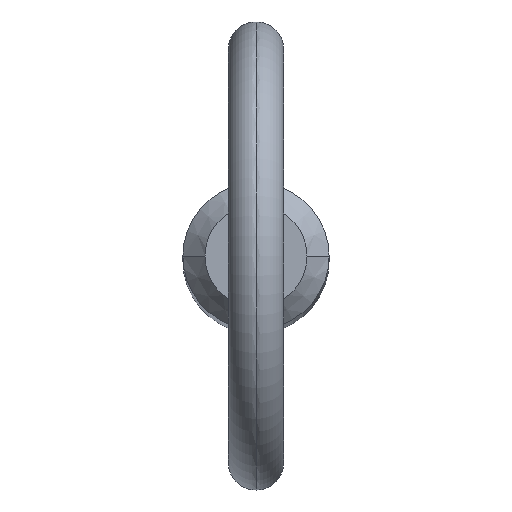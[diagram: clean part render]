
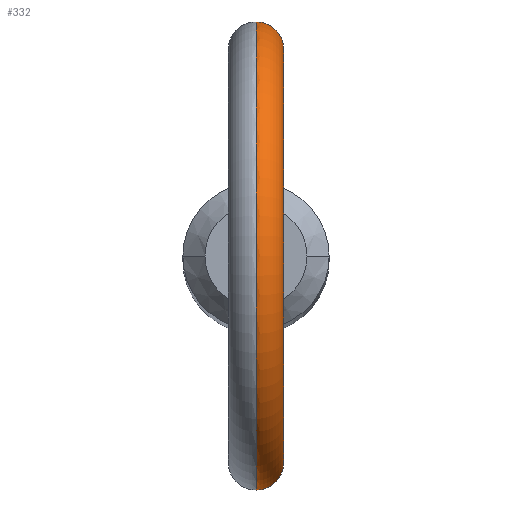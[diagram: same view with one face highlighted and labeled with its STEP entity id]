
A CAD part, top view. The second image highlights one B-rep face of the part: STEP entity #332.
In plain terms, the highlighted toroidal (fillet/blend) face has major radius 11.2 mm and minor radius 1.5 mm.
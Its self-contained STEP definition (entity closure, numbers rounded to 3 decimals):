
#9 = VERTEX_POINT ( 'NONE', #151 ) ;
#25 = CARTESIAN_POINT ( 'NONE',  ( 1.471, -3.682, 121.194 ) ) ;
#28 = CARTESIAN_POINT ( 'NONE',  ( 1.479, -3.679, 121.807 ) ) ;
#30 = CARTESIAN_POINT ( 'NONE',  ( 0.411, 3.948, 123.191 ) ) ;
#32 = CARTESIAN_POINT ( 'NONE',  ( 1.236, 3.77, 120.629 ) ) ;
#33 = CARTESIAN_POINT ( 'NONE',  ( 0.949, -3.851, 120.349 ) ) ;
#36 = DIRECTION ( 'NONE',  ( 0., 0., -1. ) ) ;
#39 = CARTESIAN_POINT ( 'NONE',  ( 1.344, 3.731, 120.803 ) ) ;
#52 = VERTEX_POINT ( 'NONE', #340 ) ;
#61 = B_SPLINE_CURVE_WITH_KNOTS ( 'NONE', 3,
 ( #339, #65, #148, #376, #70, #341, #458, #184, #452, #411, #412, #28, #374, #150, #223, #25, #415, #147, #185, #460, #33, #230, #266, #112, #145, #407 ),
 .UNSPECIFIED., .F., .F.,
 ( 4, 2, 2, 2, 2, 2, 2, 2, 2, 2, 2, 2, 4 ),
 ( 0.004, 0.005, 0.005, 0.005, 0.006, 0.006, 0.007, 0.007, 0.007, 0.008, 0.008, 0.008, 0.009 ),
 .UNSPECIFIED. ) ;
#64 = AXIS2_PLACEMENT_3D ( 'NONE', #92, #479, #172 ) ;
#65 = CARTESIAN_POINT ( 'NONE',  ( 0.102, -3.965, 123.247 ) ) ;
#70 = CARTESIAN_POINT ( 'NONE',  ( 0.498, -3.935, 123.144 ) ) ;
#77 = CARTESIAN_POINT ( 'NONE',  ( 0., 0., 132.1 ) ) ;
#79 = CARTESIAN_POINT ( 'NONE',  ( 0., 3.965, 123.247 ) ) ;
#83 = CARTESIAN_POINT ( 'NONE',  ( 0.927, 3.858, 122.867 ) ) ;
#87 = DIRECTION ( 'NONE',  ( 1., 0., 0. ) ) ;
#91 = FACE_OUTER_BOUND ( 'NONE', #210, .T. ) ;
#92 = CARTESIAN_POINT ( 'NONE',  ( 0., 0., 132.1 ) ) ;
#102 = CARTESIAN_POINT ( 'NONE',  ( 0., -3.965, 120.035 ) ) ;
#112 = CARTESIAN_POINT ( 'NONE',  ( 0.409, -3.948, 120.074 ) ) ;
#120 = CARTESIAN_POINT ( 'NONE',  ( 1.441, 3.695, 122.008 ) ) ;
#126 = EDGE_CURVE ( 'NONE', #368, #52, #397, .T. ) ;
#145 = CARTESIAN_POINT ( 'NONE',  ( 0.205, -3.965, 120.035 ) ) ;
#147 = CARTESIAN_POINT ( 'NONE',  ( 1.346, -3.73, 120.808 ) ) ;
#148 = CARTESIAN_POINT ( 'NONE',  ( 0.205, -3.961, 123.234 ) ) ;
#150 = CARTESIAN_POINT ( 'NONE',  ( 1.503, -3.669, 121.499 ) ) ;
#151 = CARTESIAN_POINT ( 'NONE',  ( 0., 3.965, 120.035 ) ) ;
#170 = CARTESIAN_POINT ( 'NONE',  ( 0.206, 3.965, 123.247 ) ) ;
#172 = DIRECTION ( 'NONE',  ( 0., 0., -1. ) ) ;
#176 = CARTESIAN_POINT ( 'NONE',  ( 0., 3.965, 123.247 ) ) ;
#177 = EDGE_CURVE ( 'NONE', #9, #368, #211, .T. ) ;
#184 = CARTESIAN_POINT ( 'NONE',  ( 1.186, -3.786, 122.559 ) ) ;
#185 = CARTESIAN_POINT ( 'NONE',  ( 1.237, -3.77, 120.631 ) ) ;
#190 = CARTESIAN_POINT ( 'NONE',  ( 0.691, 3.905, 120.189 ) ) ;
#210 = EDGE_LOOP ( 'NONE', ( #431, #503, #510, #271 ) ) ;
#211 = B_SPLINE_CURVE_WITH_KNOTS ( 'NONE', 3,
 ( #274, #229, #345, #190, #348, #420, #464, #32, #39, #307, #461, #269, #233, #507, #120, #282, #320, #83, #326, #30, #170, #79 ),
 .UNSPECIFIED., .F., .F.,
 ( 4, 2, 2, 2, 2, 2, 2, 2, 2, 2, 4 ),
 ( 0.001, 0.001, 0.002, 0.002, 0.003, 0.003, 0.003, 0.004, 0.004, 0.005, 0.006 ),
 .UNSPECIFIED. ) ;
#221 = EDGE_CURVE ( 'NONE', #9, #370, #450, .T. ) ;
#223 = CARTESIAN_POINT ( 'NONE',  ( 1.499, -3.671, 121.397 ) ) ;
#229 = CARTESIAN_POINT ( 'NONE',  ( 0.204, 3.965, 120.035 ) ) ;
#230 = CARTESIAN_POINT ( 'NONE',  ( 0.782, -3.888, 120.237 ) ) ;
#233 = CARTESIAN_POINT ( 'NONE',  ( 1.503, 3.669, 121.498 ) ) ;
#242 = AXIS2_PLACEMENT_3D ( 'NONE', #322, #87, #437 ) ;
#249 = AXIS2_PLACEMENT_3D ( 'NONE', #77, #470, #36 ) ;
#266 = CARTESIAN_POINT ( 'NONE',  ( 0.693, -3.905, 120.19 ) ) ;
#269 = CARTESIAN_POINT ( 'NONE',  ( 1.499, 3.671, 121.394 ) ) ;
#271 = ORIENTED_EDGE ( 'NONE', *, *, #126, .F. ) ;
#274 = CARTESIAN_POINT ( 'NONE',  ( 0., 3.965, 120.035 ) ) ;
#282 = CARTESIAN_POINT ( 'NONE',  ( 1.291, 3.75, 122.384 ) ) ;
#307 = CARTESIAN_POINT ( 'NONE',  ( 1.447, 3.692, 121.093 ) ) ;
#320 = CARTESIAN_POINT ( 'NONE',  ( 1.185, 3.786, 122.56 ) ) ;
#322 = CARTESIAN_POINT ( 'NONE',  ( 0., 0., 132.1 ) ) ;
#326 = CARTESIAN_POINT ( 'NONE',  ( 0.769, 3.894, 123.001 ) ) ;
#332 = ADVANCED_FACE ( 'NONE', ( #91 ), #378, .T. ) ;
#339 = CARTESIAN_POINT ( 'NONE',  ( 0., -3.965, 123.247 ) ) ;
#340 = CARTESIAN_POINT ( 'NONE',  ( 0., -3.965, 123.247 ) ) ;
#341 = CARTESIAN_POINT ( 'NONE',  ( 0.77, -3.894, 123. ) ) ;
#345 = CARTESIAN_POINT ( 'NONE',  ( 0.41, 3.948, 120.074 ) ) ;
#348 = CARTESIAN_POINT ( 'NONE',  ( 0.782, 3.888, 120.237 ) ) ;
#368 = VERTEX_POINT ( 'NONE', #176 ) ;
#370 = VERTEX_POINT ( 'NONE', #102 ) ;
#374 = CARTESIAN_POINT ( 'NONE',  ( 1.493, -3.673, 121.704 ) ) ;
#376 = CARTESIAN_POINT ( 'NONE',  ( 0.404, -3.946, 123.182 ) ) ;
#378 = TOROIDAL_SURFACE ( 'NONE', #242, 11.2, 1.5 ) ;
#397 = CIRCLE ( 'NONE', #249, 9.7 ) ;
#407 = CARTESIAN_POINT ( 'NONE',  ( 0., -3.965, 120.035 ) ) ;
#411 = CARTESIAN_POINT ( 'NONE',  ( 1.404, -3.708, 122.101 ) ) ;
#412 = CARTESIAN_POINT ( 'NONE',  ( 1.434, -3.697, 122.005 ) ) ;
#415 = CARTESIAN_POINT ( 'NONE',  ( 1.447, -3.692, 121.093 ) ) ;
#420 = CARTESIAN_POINT ( 'NONE',  ( 0.949, 3.851, 120.349 ) ) ;
#431 = ORIENTED_EDGE ( 'NONE', *, *, #177, .F. ) ;
#437 = DIRECTION ( 'NONE',  ( 0., 0., -1. ) ) ;
#450 = CIRCLE ( 'NONE', #64, 12.7 ) ;
#452 = CARTESIAN_POINT ( 'NONE',  ( 1.291, -3.75, 122.383 ) ) ;
#458 = CARTESIAN_POINT ( 'NONE',  ( 0.925, -3.858, 122.868 ) ) ;
#460 = CARTESIAN_POINT ( 'NONE',  ( 1.028, -3.83, 120.415 ) ) ;
#461 = CARTESIAN_POINT ( 'NONE',  ( 1.47, 3.682, 121.192 ) ) ;
#464 = CARTESIAN_POINT ( 'NONE',  ( 1.026, 3.831, 120.413 ) ) ;
#470 = DIRECTION ( 'NONE',  ( 1., 0., 0. ) ) ;
#479 = DIRECTION ( 'NONE',  ( 1., 0., 0. ) ) ;
#503 = ORIENTED_EDGE ( 'NONE', *, *, #221, .T. ) ;
#507 = CARTESIAN_POINT ( 'NONE',  ( 1.488, 3.675, 121.805 ) ) ;
#510 = ORIENTED_EDGE ( 'NONE', *, *, #512, .F. ) ;
#512 = EDGE_CURVE ( 'NONE', #52, #370, #61, .T. ) ;
